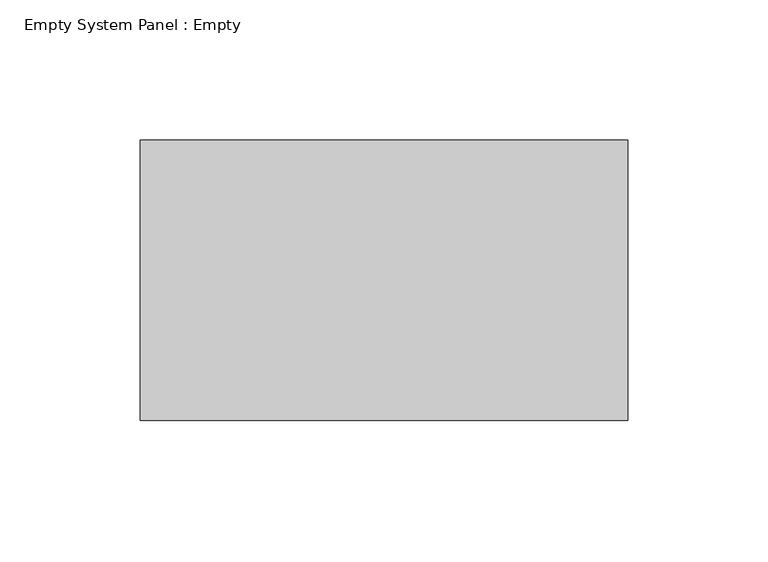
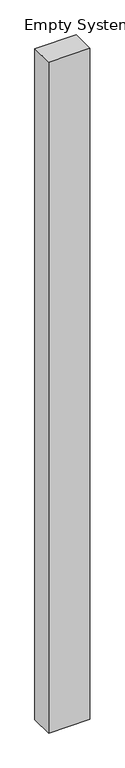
"""IFC4 building model written with IfcOpenShell, lengths in millimetres: plate geometry, Empty System Panel : Empty."""

from ifc_helpers import new_model, si_unit, origin, origin_with_axes, place, context, project, spatial, polyline, outline, extrude, source, transform, mapped, element, save


def empty_system_panel_empty_aac18751(model_context):
    return source(origin(), model_context, "Body", "SweptSolid", [
        extrude(outline(polyline([(86.9185245, -50.0), (-86.9185245, -50.0), (-86.9185245, 50.0), (86.9185245, 50.0), (86.9185245, -50.0)])), origin_with_axes(), (0.0, 0.0, 1.0), 3000.0),
    ])


if __name__ == "__main__":
    model = new_model("IFC4")
    model_context = context("Model", 3, world=origin())
    ifc_project = project(units=[si_unit("LENGTHUNIT", "METRE", prefix="MILLI")], contexts=[model_context])
    site = spatial("IfcSite", under=ifc_project)
    building = spatial("IfcBuilding", under=site)
    placement = place(None, origin())
    empty_system_panel_empty_shape = empty_system_panel_empty_aac18751(model_context)
    element("IfcPlate", 1, ObjectType="Empty System Panel : Empty", at=placement, inside=building, context=model_context, shape_type="MappedRepresentation", body=[
        mapped(empty_system_panel_empty_shape, transform((0.0, 0.0, 0.0), x_axis=(1.0, 0.0, 0.0), y_axis=(0.0, 1.0, 0.0), z_axis=(0.0, 0.0, 1.0))),
    ])
    save(model, "model.ifc")
